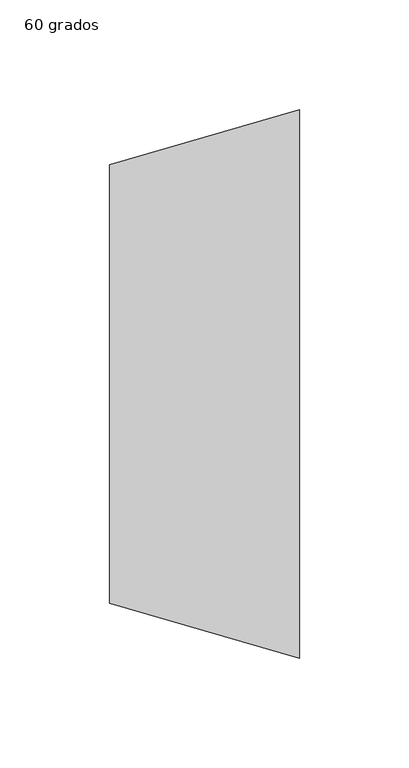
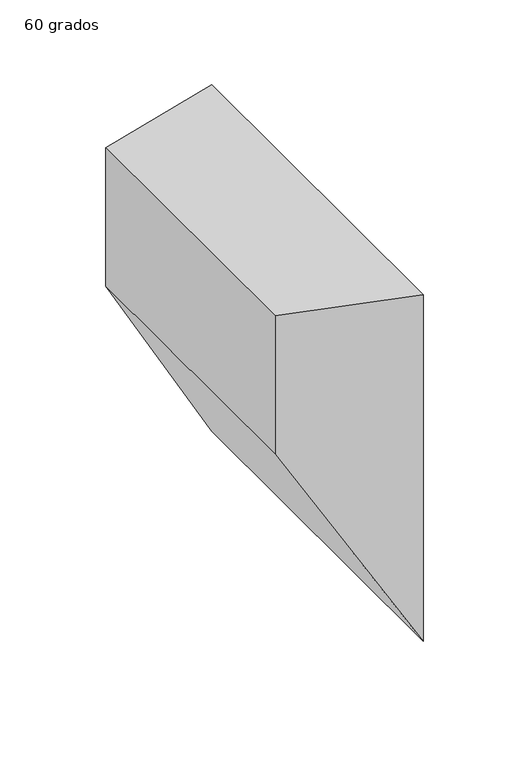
"""IFC4 building model written with IfcOpenShell, lengths in millimetres: duct fitting geometry, M_Transición rectangular - Ángulo : 60 grados."""

from ifc_helpers import new_model, si_unit, origin, place, context, project, spatial, faceted_brep, source, transform, mapped, element, save


def duct_fitting_60_grados_d87be35f(model_context):
    return source(origin(), model_context, "Body", "Brep", [
        faceted_brep([(86.6025404, -125.0, 50.0), (86.6025404, -125.0, -200.0), (86.6025404, 125.0, -200.0), (86.6025404, 125.0, 50.0), (0.0, -100.0, 50.0), (0.0, 100.0, 50.0), (0.0, 100.0, -50.0), (0.0, -100.0, -50.0)], [[[0, 1, 2, 3]], [[4, 5, 6, 7]], [[4, 7, 1, 0]], [[7, 6, 2, 1]], [[6, 5, 3, 2]], [[5, 4, 0, 3]]]),
    ])


if __name__ == "__main__":
    model = new_model("IFC4")
    model_context = context("Model", 3, world=origin())
    ifc_project = project(units=[si_unit("LENGTHUNIT", "METRE", prefix="MILLI")], contexts=[model_context])
    site = spatial("IfcSite", under=ifc_project)
    building = spatial("IfcBuilding", under=site)
    placement = place(None, origin())
    duct_fitting_60_grados_shape = duct_fitting_60_grados_d87be35f(model_context)
    element("IfcDuctFitting", 1, ObjectType="M_Transición rectangular - Ángulo : 60 grados", at=placement, inside=building, context=model_context, shape_type="MappedRepresentation", body=[
        mapped(duct_fitting_60_grados_shape, transform((0.0, 0.0, 0.0), x_axis=(1.0, 0.0, 0.0), y_axis=(0.0, 1.0, 0.0), z_axis=(0.0, 0.0, 1.0))),
    ])
    save(model, "model.ifc")
